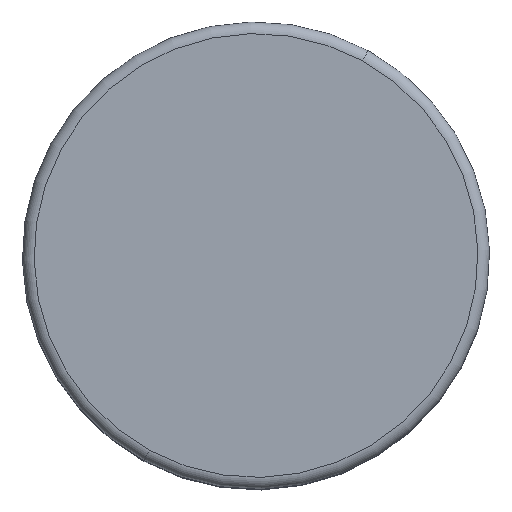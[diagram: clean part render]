
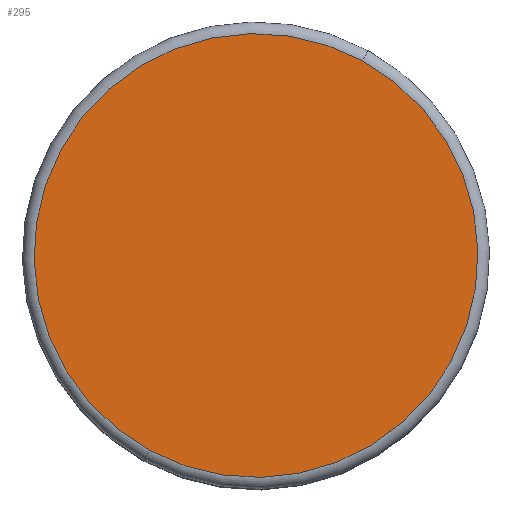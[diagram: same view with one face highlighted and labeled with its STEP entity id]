
A CAD part, top view. The second image highlights one B-rep face of the part: STEP entity #295.
In plain terms, the highlighted planar face has unit normal (0, 0, 1).
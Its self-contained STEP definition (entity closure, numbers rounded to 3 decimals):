
#242=CARTESIAN_POINT('Vertex',(18.218,33.348,90.)) ;
#245=CARTESIAN_POINT('Axis2P3D Location',(0.,0.,90.)) ;
#249=CARTESIAN_POINT('Vertex',(-18.218,-33.348,90.)) ;
#264=CARTESIAN_POINT('Axis2P3D Location',(0.,0.,90.)) ;
#286=CARTESIAN_POINT('Axis2P3D Location',(0.,38.,90.)) ;
#246=DIRECTION('Axis2P3D Direction',(0.,0.,-1.)) ;
#265=DIRECTION('Axis2P3D Direction',(0.,0.,-1.)) ;
#287=DIRECTION('Axis2P3D Direction',(0.,0.,-1.)) ;
#288=DIRECTION('Axis2P3D XDirection',(1.,0.,0.)) ;
#247=AXIS2_PLACEMENT_3D('Circle Axis2P3D',#245,#246,$) ;
#266=AXIS2_PLACEMENT_3D('Circle Axis2P3D',#264,#265,$) ;
#289=AXIS2_PLACEMENT_3D('Plane Axis2P3D',#286,#287,#288) ;
#292=ORIENTED_EDGE('',*,*,#251,.F.) ;
#293=ORIENTED_EDGE('',*,*,#268,.F.) ;
#295=ADVANCED_FACE('A519-80',(#294),#290,.F.) ;
#248=CIRCLE('generated circle',#247,38.) ;
#267=CIRCLE('generated circle',#266,38.) ;
#251=EDGE_CURVE('',#243,#250,#248,.T.) ;
#268=EDGE_CURVE('',#250,#243,#267,.T.) ;
#291=EDGE_LOOP('',(#292,#293)) ;
#294=FACE_OUTER_BOUND('',#291,.T.) ;
#290=PLANE('Plane',#289) ;
#243=VERTEX_POINT('',#242) ;
#250=VERTEX_POINT('',#249) ;
